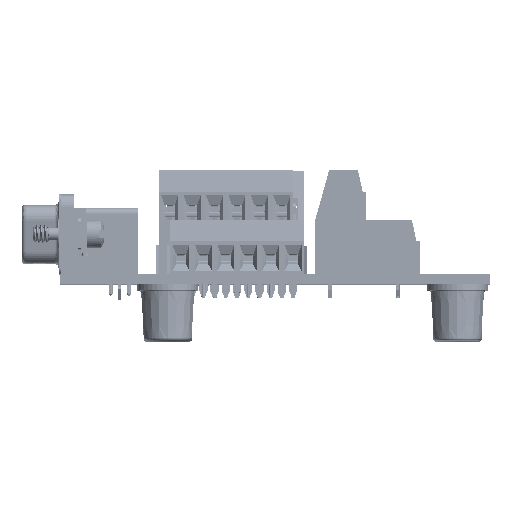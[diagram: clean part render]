
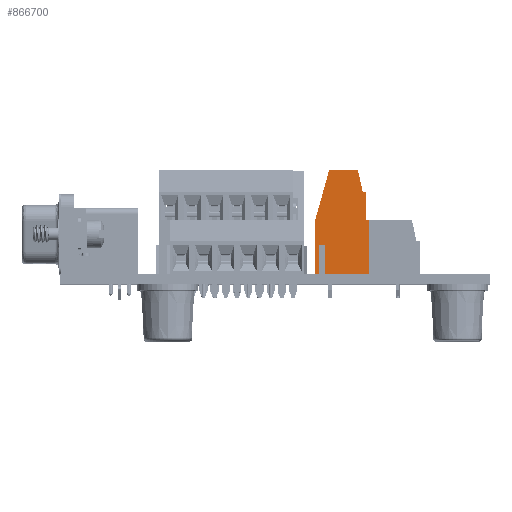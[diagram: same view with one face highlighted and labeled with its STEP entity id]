
A CAD part, top view. The second image highlights one B-rep face of the part: STEP entity #866700.
In plain terms, the highlighted planar face has unit normal (0, 0, 1) as drawn and (-1, 0, 0) by its records, which use the part's own axes.
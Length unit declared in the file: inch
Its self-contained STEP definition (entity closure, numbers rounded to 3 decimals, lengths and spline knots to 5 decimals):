
#579 = CARTESIAN_POINT ( 'NONE',  ( -0.0689, -0.24606, -0.6378 ) ) ;
#17168 = VECTOR ( 'NONE', #1231827, 39.37008 ) ;
#20454 = VECTOR ( 'NONE', #627515, 39.37008 ) ;
#21118 = DIRECTION ( 'NONE',  ( 0., 1., 0. ) ) ;
#28913 = CARTESIAN_POINT ( 'NONE',  ( -0.0689, -0.01969, -0.50394 ) ) ;
#38979 = VERTEX_POINT ( 'NONE', #579406 ) ;
#68863 = LINE ( 'NONE', #1234176, #1035535 ) ;
#93408 = DIRECTION ( 'NONE',  ( 0., -0.269, 0.963 ) ) ;
#107706 = CARTESIAN_POINT ( 'NONE',  ( -0.0689, 0., -0.33465 ) ) ;
#122229 = CARTESIAN_POINT ( 'NONE',  ( -0.0689, -0.02953, -0.50394 ) ) ;
#130872 = EDGE_CURVE ( 'NONE', #38979, #689173, #141450, .T. ) ;
#135457 = LINE ( 'NONE', #122229, #815143 ) ;
#141450 = LINE ( 'NONE', #251591, #20454 ) ;
#144837 = DIRECTION ( 'NONE',  ( 0., -1., 0. ) ) ;
#186149 = ORIENTED_EDGE ( 'NONE', *, *, #433728, .T. ) ;
#221172 = FACE_OUTER_BOUND ( 'NONE', #250249, .T. ) ;
#222352 = VERTEX_POINT ( 'NONE', #28913 ) ;
#230294 = AXIS2_PLACEMENT_3D ( 'NONE', #358266, #459756, #1135096 ) ;
#250249 = EDGE_LOOP ( 'NONE', ( #1100022, #694391, #303340, #1197068, #186149, #697386, #280257, #832543, #1159843, #387081, #358322, #1191179, #802408 ) ) ;
#251591 = CARTESIAN_POINT ( 'NONE',  ( -0.0689, -0.03937, -0.50394 ) ) ;
#251924 = CARTESIAN_POINT ( 'NONE',  ( -0.0689, 0., 0. ) ) ;
#252344 = EDGE_CURVE ( 'NONE', #386797, #308762, #635644, .T. ) ;
#253623 = DIRECTION ( 'NONE',  ( 0., 0., 1. ) ) ;
#258799 = VECTOR ( 'NONE', #144837, 39.37008 ) ;
#278097 = CARTESIAN_POINT ( 'NONE',  ( -0.0689, -0.24606, -0.6378 ) ) ;
#280257 = ORIENTED_EDGE ( 'NONE', *, *, #1118166, .F. ) ;
#303340 = ORIENTED_EDGE ( 'NONE', *, *, #626567, .T. ) ;
#308762 = VERTEX_POINT ( 'NONE', #335770 ) ;
#321005 = VECTOR ( 'NONE', #326275, 39.37008 ) ;
#326275 = DIRECTION ( 'NONE',  ( 0., 0., -1. ) ) ;
#335770 = CARTESIAN_POINT ( 'NONE',  ( -0.0689, -0.33071, 0. ) ) ;
#345004 = CARTESIAN_POINT ( 'NONE',  ( -0.0689, -0.29921, -0.3189 ) ) ;
#353315 = DIRECTION ( 'NONE',  ( 0., 0., -1. ) ) ;
#358266 = CARTESIAN_POINT ( 'NONE',  ( -0.0689, 0., 0. ) ) ;
#358322 = ORIENTED_EDGE ( 'NONE', *, *, #1039408, .T. ) ;
#364614 = DIRECTION ( 'NONE',  ( 0., 0., -1. ) ) ;
#378793 = VERTEX_POINT ( 'NONE', #615608 ) ;
#381323 = DIRECTION ( 'NONE',  ( 0., 1., 0. ) ) ;
#386797 = VERTEX_POINT ( 'NONE', #1089766 ) ;
#387025 = LINE ( 'NONE', #521459, #1218308 ) ;
#387081 = ORIENTED_EDGE ( 'NONE', *, *, #130872, .T. ) ;
#433728 = EDGE_CURVE ( 'NONE', #711831, #462086, #866463, .T. ) ;
#459756 = DIRECTION ( 'NONE',  ( -1., 0., 0. ) ) ;
#462086 = VERTEX_POINT ( 'NONE', #251924 ) ;
#473125 = VERTEX_POINT ( 'NONE', #107706 ) ;
#479165 = VECTOR ( 'NONE', #364614, 39.37008 ) ;
#480362 = LINE ( 'NONE', #523558, #1220584 ) ;
#482825 = VECTOR ( 'NONE', #353315, 39.37008 ) ;
#491079 = CARTESIAN_POINT ( 'NONE',  ( -0.0689, 0., 0. ) ) ;
#510129 = VECTOR ( 'NONE', #93408, 39.37008 ) ;
#521459 = CARTESIAN_POINT ( 'NONE',  ( -0.0689, -0.33071, -0.3189 ) ) ;
#523558 = CARTESIAN_POINT ( 'NONE',  ( -0.0689, 0.12106, -0.33465 ) ) ;
#550221 = VECTOR ( 'NONE', #253623, 39.37008 ) ;
#556304 = CARTESIAN_POINT ( 'NONE',  ( -0.0689, -0.16535, -0.1811 ) ) ;
#571052 = VERTEX_POINT ( 'NONE', #1249884 ) ;
#571302 = CARTESIAN_POINT ( 'NONE',  ( -0.0689, 0., -0.3189 ) ) ;
#579406 = CARTESIAN_POINT ( 'NONE',  ( -0.0689, -0.03937, -0.50394 ) ) ;
#594339 = VERTEX_POINT ( 'NONE', #1029078 ) ;
#608481 = CARTESIAN_POINT ( 'NONE',  ( -0.0689, -0.0689, -0.6378 ) ) ;
#615608 = CARTESIAN_POINT ( 'NONE',  ( -0.0689, -0.29921, -0.1811 ) ) ;
#626567 = EDGE_CURVE ( 'NONE', #378793, #594339, #787624, .T. ) ;
#627515 = DIRECTION ( 'NONE',  ( 0., -0.215, -0.977 ) ) ;
#635644 = LINE ( 'NONE', #1204587, #258799 ) ;
#689173 = VERTEX_POINT ( 'NONE', #608481 ) ;
#694391 = ORIENTED_EDGE ( 'NONE', *, *, #743720, .T. ) ;
#697386 = ORIENTED_EDGE ( 'NONE', *, *, #892221, .T. ) ;
#711831 = VERTEX_POINT ( 'NONE', #939463 ) ;
#743479 = CARTESIAN_POINT ( 'NONE',  ( -0.0689, -0.27953, -0.3189 ) ) ;
#743720 = EDGE_CURVE ( 'NONE', #386797, #378793, #1253150, .T. ) ;
#761381 = DIRECTION ( 'NONE',  ( 0., -1., 0. ) ) ;
#775799 = VECTOR ( 'NONE', #381323, 39.37008 ) ;
#787624 = LINE ( 'NONE', #556304, #17168 ) ;
#802408 = ORIENTED_EDGE ( 'NONE', *, *, #899106, .T. ) ;
#815143 = VECTOR ( 'NONE', #21118, 39.37008 ) ;
#832543 = ORIENTED_EDGE ( 'NONE', *, *, #1200936, .T. ) ;
#865006 = LINE ( 'NONE', #913221, #321005 ) ;
#866463 = LINE ( 'NONE', #491079, #775799 ) ;
#866700 = ADVANCED_FACE ( 'NONE', ( #221172 ), #1122727, .T. ) ;
#892221 = EDGE_CURVE ( 'NONE', #462086, #473125, #1233894, .T. ) ;
#899106 = EDGE_CURVE ( 'NONE', #1183186, #308762, #387025, .T. ) ;
#913221 = CARTESIAN_POINT ( 'NONE',  ( -0.0689, -0.01969, -0.3189 ) ) ;
#939463 = CARTESIAN_POINT ( 'NONE',  ( -0.0689, -0.27953, 0. ) ) ;
#977504 = EDGE_CURVE ( 'NONE', #594339, #711831, #1183843, .T. ) ;
#1004948 = DIRECTION ( 'NONE',  ( 0., 1., 0. ) ) ;
#1029078 = CARTESIAN_POINT ( 'NONE',  ( -0.0689, -0.27953, -0.1811 ) ) ;
#1035535 = VECTOR ( 'NONE', #761381, 39.37008 ) ;
#1039408 = EDGE_CURVE ( 'NONE', #689173, #1244811, #68863, .T. ) ;
#1084395 = LINE ( 'NONE', #579, #510129 ) ;
#1086838 = EDGE_CURVE ( 'NONE', #38979, #222352, #135457, .T. ) ;
#1089766 = CARTESIAN_POINT ( 'NONE',  ( -0.0689, -0.29921, 0. ) ) ;
#1095754 = DIRECTION ( 'NONE',  ( 0., 0., 1. ) ) ;
#1100022 = ORIENTED_EDGE ( 'NONE', *, *, #252344, .F. ) ;
#1118166 = EDGE_CURVE ( 'NONE', #571052, #473125, #480362, .T. ) ;
#1122727 = PLANE ( 'NONE',  #230294 ) ;
#1127881 = CARTESIAN_POINT ( 'NONE',  ( -0.0689, -0.33071, -0.33465 ) ) ;
#1135096 = DIRECTION ( 'NONE',  ( 0., 0., -1. ) ) ;
#1159843 = ORIENTED_EDGE ( 'NONE', *, *, #1086838, .F. ) ;
#1183186 = VERTEX_POINT ( 'NONE', #1127881 ) ;
#1183843 = LINE ( 'NONE', #743479, #550221 ) ;
#1191179 = ORIENTED_EDGE ( 'NONE', *, *, #1237997, .T. ) ;
#1197068 = ORIENTED_EDGE ( 'NONE', *, *, #977504, .T. ) ;
#1200936 = EDGE_CURVE ( 'NONE', #571052, #222352, #865006, .T. ) ;
#1204587 = CARTESIAN_POINT ( 'NONE',  ( -0.0689, 0.31102, 0. ) ) ;
#1218308 = VECTOR ( 'NONE', #1095754, 39.37008 ) ;
#1220584 = VECTOR ( 'NONE', #1004948, 39.37008 ) ;
#1231827 = DIRECTION ( 'NONE',  ( 0., 1., 0. ) ) ;
#1233894 = LINE ( 'NONE', #571302, #479165 ) ;
#1234176 = CARTESIAN_POINT ( 'NONE',  ( -0.0689, -0.16535, -0.6378 ) ) ;
#1237997 = EDGE_CURVE ( 'NONE', #1244811, #1183186, #1084395, .T. ) ;
#1244811 = VERTEX_POINT ( 'NONE', #278097 ) ;
#1249884 = CARTESIAN_POINT ( 'NONE',  ( -0.0689, -0.01969, -0.33465 ) ) ;
#1253150 = LINE ( 'NONE', #345004, #482825 ) ;
